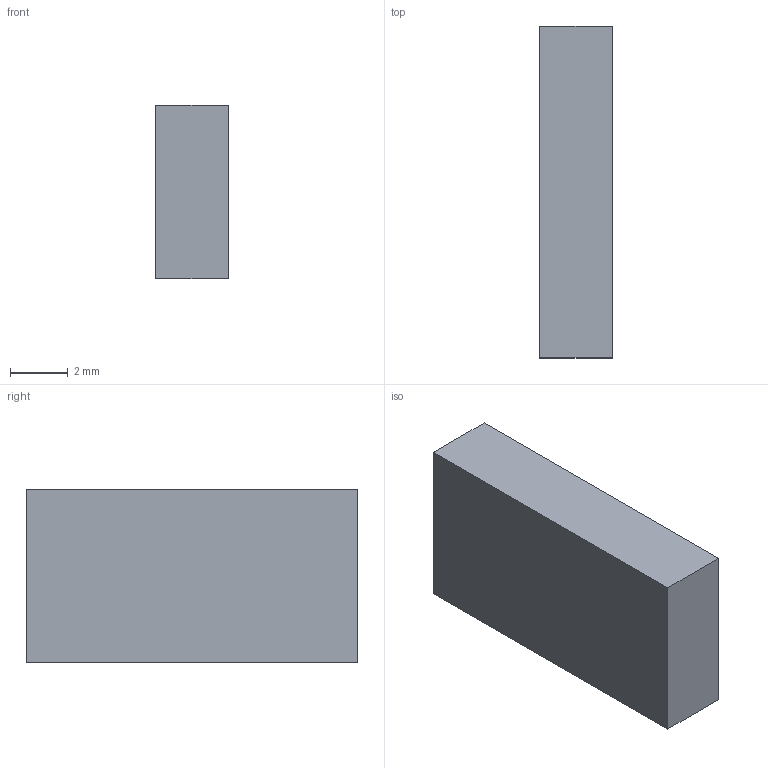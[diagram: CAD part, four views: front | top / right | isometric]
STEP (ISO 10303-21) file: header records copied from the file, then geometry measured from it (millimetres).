
FILE_DESCRIPTION (( 'STEP AP214' ), '1' );
FILE_NAME ('Motor Lock.STEP', '2021-11-11T22:21:39', ( 'Valera' ), ( '' ), 'SwSTEP 2.0', 'SolidWorks 2020', '' );
FILE_SCHEMA (( 'AUTOMOTIVE_DESIGN' ));
Length unit declared in the file: millimetre
Products named in the file (1): Motor Lock
Bounding box: 2.5 x 11.5 x 6 mm (x, y, z)
Volume: 172.5 mm3; surface area: 225.5 mm2
Topology: 1 solids, 1 shells, 6 faces, 12 edges, 8 vertices
Faces by surface type: plane 6
Entity records: 190 total; most frequent: CARTESIAN_POINT 27, DIRECTION 26, ORIENTED_EDGE 24, VECTOR 12, LINE 12, EDGE_CURVE 12, VERTEX_POINT 8, AXIS2_PLACEMENT_3D 7
